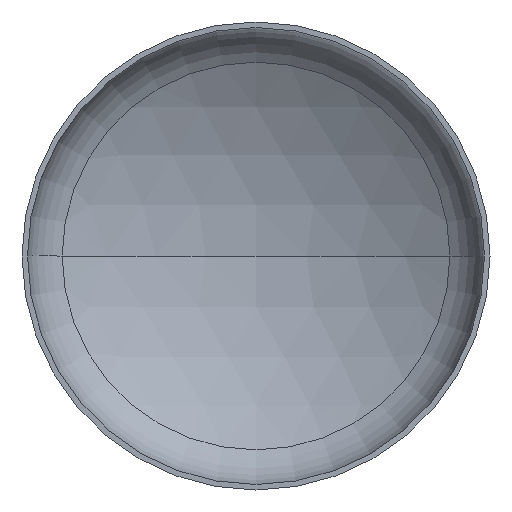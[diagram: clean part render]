
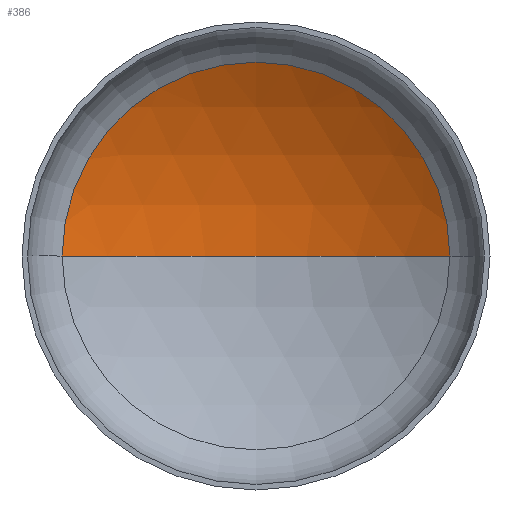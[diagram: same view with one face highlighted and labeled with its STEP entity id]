
A CAD part, front view. The second image highlights one B-rep face of the part: STEP entity #386.
In plain terms, the highlighted spherical face has radius 2240 mm.
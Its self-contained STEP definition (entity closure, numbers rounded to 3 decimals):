
#2 = AXIS2_PLACEMENT_3D ( 'NONE', #271, #378, #227 ) ;
#17 = VERTEX_POINT ( 'NONE', #245 ) ;
#43 = AXIS2_PLACEMENT_3D ( 'NONE', #186, #173, #263 ) ;
#48 = AXIS2_PLACEMENT_3D ( 'NONE', #399, #249, #196 ) ;
#67 = VERTEX_POINT ( 'NONE', #273 ) ;
#85 = ORIENTED_EDGE ( 'NONE', *, *, #336, .T. ) ;
#113 = ORIENTED_EDGE ( 'NONE', *, *, #331, .T. ) ;
#126 = VERTEX_POINT ( 'NONE', #230 ) ;
#149 = SPHERICAL_SURFACE ( 'NONE', #323, 2240. ) ;
#155 = FACE_OUTER_BOUND ( 'NONE', #170, .T. ) ;
#170 = EDGE_LOOP ( 'NONE', ( #411, #85, #113 ) ) ;
#173 = DIRECTION ( 'NONE',  ( 0., 0., -1. ) ) ;
#178 = CIRCLE ( 'NONE', #48, 1159.602 ) ;
#186 = CARTESIAN_POINT ( 'NONE',  ( 0., -1448.59, 0. ) ) ;
#196 = DIRECTION ( 'NONE',  ( 1., 0., 0. ) ) ;
#227 = DIRECTION ( 'NONE',  ( 1., 0., 0. ) ) ;
#230 = CARTESIAN_POINT ( 'NONE',  ( 1159.602, 467.897, 0. ) ) ;
#233 = DIRECTION ( 'NONE',  ( 0., 0., -1. ) ) ;
#245 = CARTESIAN_POINT ( 'NONE',  ( -1159.602, 467.897, 0. ) ) ;
#249 = DIRECTION ( 'NONE',  ( 0., -1., 0. ) ) ;
#263 = DIRECTION ( 'NONE',  ( -1., 0., 0. ) ) ;
#271 = CARTESIAN_POINT ( 'NONE',  ( 0., -1448.59, 0. ) ) ;
#272 = CIRCLE ( 'NONE', #2, 2240. ) ;
#273 = CARTESIAN_POINT ( 'NONE',  ( 0., 791.41, 0. ) ) ;
#323 = AXIS2_PLACEMENT_3D ( 'NONE', #357, #233, #402 ) ;
#331 = EDGE_CURVE ( 'NONE', #126, #17, #178, .T. ) ;
#336 = EDGE_CURVE ( 'NONE', #67, #126, #355, .T. ) ;
#355 = CIRCLE ( 'NONE', #43, 2240. ) ;
#357 = CARTESIAN_POINT ( 'NONE',  ( 0., -1448.59, 0. ) ) ;
#378 = DIRECTION ( 'NONE',  ( 0., 0., 1. ) ) ;
#385 = EDGE_CURVE ( 'NONE', #67, #17, #272, .T. ) ;
#386 = ADVANCED_FACE ( 'NONE', ( #155 ), #149, .F. ) ;
#399 = CARTESIAN_POINT ( 'NONE',  ( 0., 467.897, 0. ) ) ;
#402 = DIRECTION ( 'NONE',  ( -1., 0., 0. ) ) ;
#411 = ORIENTED_EDGE ( 'NONE', *, *, #385, .F. ) ;
